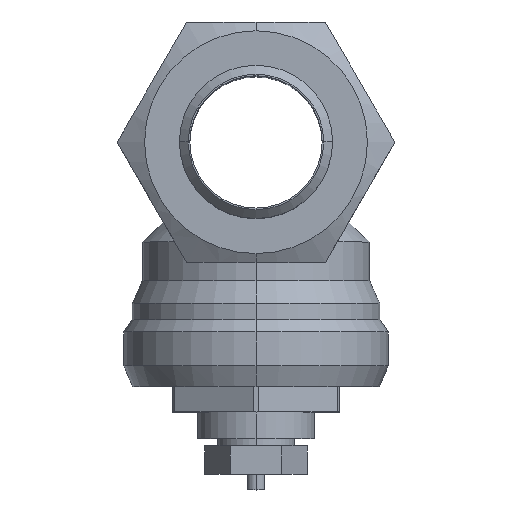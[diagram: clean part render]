
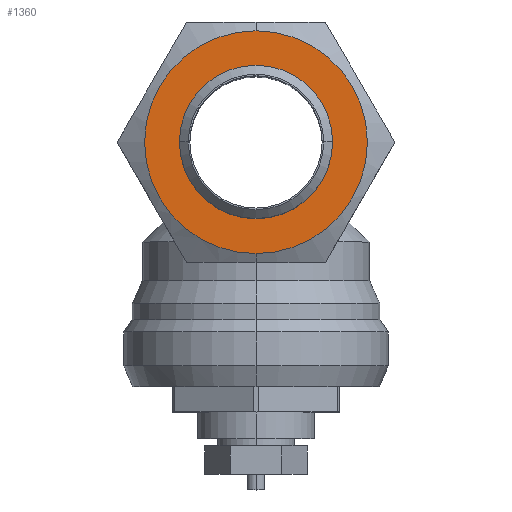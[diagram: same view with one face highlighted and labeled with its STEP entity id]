
A CAD part, top view. The second image highlights one B-rep face of the part: STEP entity #1360.
In plain terms, the highlighted planar face has unit normal (0, 0, 1).
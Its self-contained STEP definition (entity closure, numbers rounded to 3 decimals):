
#72=CARTESIAN_POINT('',(0.,-7.425,48.299));
#73=VERTEX_POINT('',#72);
#89=CARTESIAN_POINT('',(0.,7.425,48.299));
#90=VERTEX_POINT('',#89);
#97=CARTESIAN_POINT('',(0.,0.,48.299));
#98=DIRECTION('',(0.0,0.0,-1.0));
#99=DIRECTION('',(0.0,-1.0,0.0));
#100=AXIS2_PLACEMENT_3D('',#97,#98,#99);
#101=CIRCLE('',#100,7.425);
#102=EDGE_CURVE('',#73,#90,#101,.T.);
#800=CARTESIAN_POINT('',(0.,-12.509,48.299));
#801=VERTEX_POINT('',#800);
#868=CARTESIAN_POINT('',(0.,12.509,48.299));
#869=VERTEX_POINT('',#868);
#876=CARTESIAN_POINT('',(0.,0.,48.299));
#877=DIRECTION('',(0.0,0.0,1.0));
#878=DIRECTION('',(0.0,-1.0,0.0));
#879=AXIS2_PLACEMENT_3D('',#876,#877,#878);
#880=CIRCLE('',#879,12.509);
#881=EDGE_CURVE('',#801,#869,#880,.T.);
#1326=CARTESIAN_POINT('',(0.,0.,48.299));
#1327=DIRECTION('',(0.0,0.0,1.0));
#1328=DIRECTION('',(0.0,-1.0,0.0));
#1329=AXIS2_PLACEMENT_3D('',#1326,#1327,#1328);
#1330=CIRCLE('',#1329,12.509);
#1331=EDGE_CURVE('',#869,#801,#1330,.T.);
#1341=CARTESIAN_POINT('',(0.,-10.342,48.299));
#1342=DIRECTION('',(0.0,0.0,1.0));
#1343=DIRECTION('',(-1.0,0.0,0.0));
#1344=AXIS2_PLACEMENT_3D('',#1341,#1342,#1343);
#1345=PLANE('',#1344);
#1346=ORIENTED_EDGE('',*,*,#881,.T.);
#1347=ORIENTED_EDGE('',*,*,#1331,.T.);
#1348=EDGE_LOOP('',(#1346,#1347));
#1349=FACE_OUTER_BOUND('',#1348,.T.);
#1350=CARTESIAN_POINT('',(0.,0.,48.299));
#1351=DIRECTION('',(0.0,0.0,-1.0));
#1352=DIRECTION('',(0.0,-1.0,0.0));
#1353=AXIS2_PLACEMENT_3D('',#1350,#1351,#1352);
#1354=CIRCLE('',#1353,7.425);
#1355=EDGE_CURVE('',#90,#73,#1354,.T.);
#1356=ORIENTED_EDGE('',*,*,#1355,.T.);
#1357=ORIENTED_EDGE('',*,*,#102,.T.);
#1358=EDGE_LOOP('',(#1356,#1357));
#1359=FACE_BOUND('',#1358,.T.);
#1360=ADVANCED_FACE('',(#1349,#1359),#1345,.T.);
